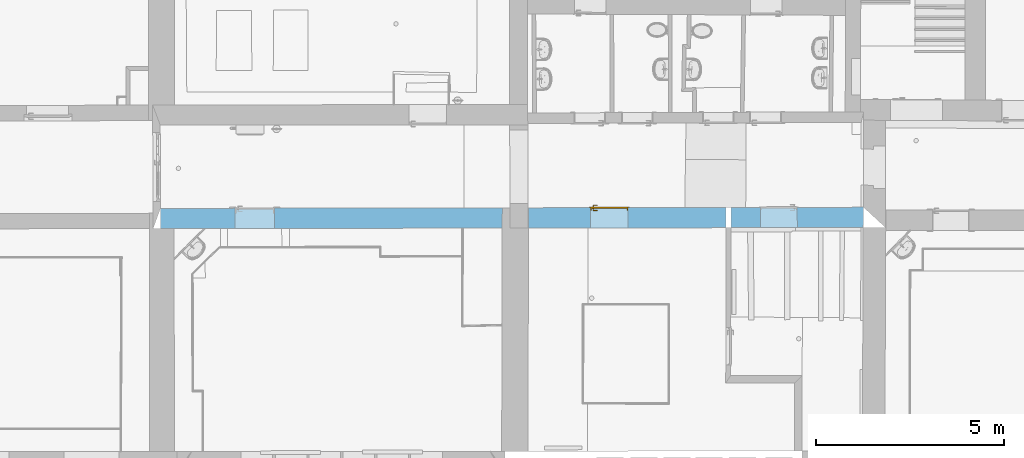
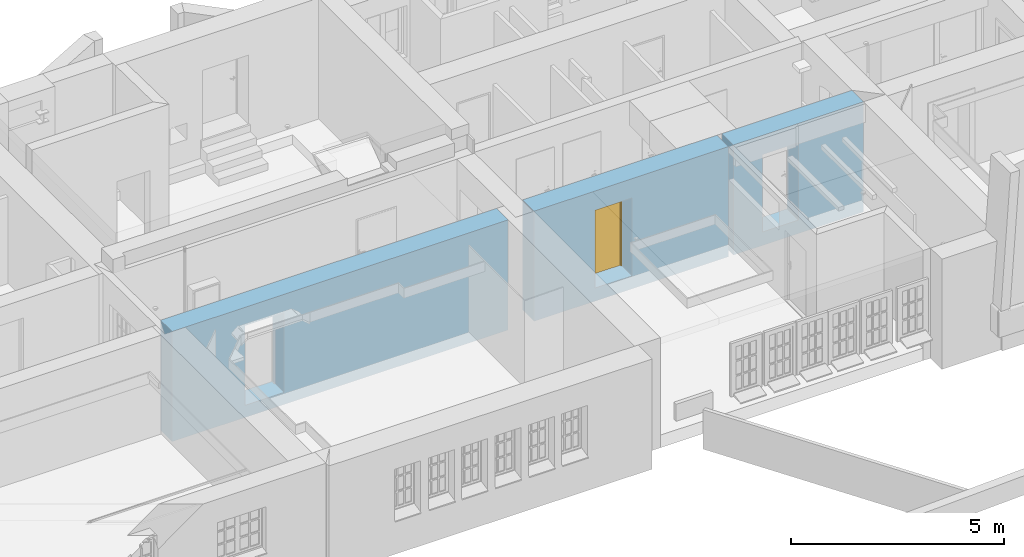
# One storey, part 96 of 196: 1 door, 3 openings, plus 1 element that does not belong to this part.
"""IFC2X3 building model written with IfcOpenShell, lengths in metres."""

from ifc_helpers import new_model, entity, si_unit, converted_unit, derived_unit, money_unit, direction, frame, origin_with_axes, origin_2d_with_axis, place, context, subcontext, project, spatial, polyline, rectangle, outline, extrude, boolean, faceted_brep, material, type_object, element, fill, save


model = new_model("IFC2X3")

# Units and contexts
model_context = context("Model", 3, precision=1e-05, world=origin_with_axes(), true_north=direction((0.0, 1.0)))
body_context = subcontext(model_context, "Body", "Model", "MODEL_VIEW")
ifc_project = project(units=[si_unit("LENGTHUNIT", "METRE"), si_unit("AREAUNIT", "SQUARE_METRE"), si_unit("VOLUMEUNIT", "CUBIC_METRE"), converted_unit("PLANEANGLEUNIT", "DEGREE", entity("IfcPlaneAngleMeasure", 0.0174532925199), si_unit("PLANEANGLEUNIT", "RADIAN"), dimensions=[0, 0, 0, 0, 0, 0, 0]), money_unit("EUR"), converted_unit("TIMEUNIT", "Year", entity("IfcTimeMeasure", 31556926.0), si_unit("TIMEUNIT", "SECOND"), dimensions=[0, 0, 1, 0, 0, 0, 0]), si_unit("MASSUNIT", "GRAM", prefix="KILO"), si_unit("THERMODYNAMICTEMPERATUREUNIT", "DEGREE_CELSIUS"), si_unit("LUMINOUSINTENSITYUNIT", "LUMEN"), si_unit("ENERGYUNIT", "JOULE", prefix="MEGA"), derived_unit("THERMALCONDUCTANCEUNIT", [(si_unit("POWERUNIT", "WATT"), 1), (si_unit("LENGTHUNIT", "METRE"), -1), (si_unit("THERMODYNAMICTEMPERATUREUNIT", "KELVIN"), -1)]), derived_unit("SPECIFICHEATCAPACITYUNIT", [(si_unit("ENERGYUNIT", "JOULE"), 1), (si_unit("MASSUNIT", "GRAM", prefix="KILO"), -1), (si_unit("THERMODYNAMICTEMPERATUREUNIT", "KELVIN"), -1)]), derived_unit("MASSDENSITYUNIT", [(si_unit("MASSUNIT", "GRAM", prefix="KILO"), 1), (si_unit("VOLUMEUNIT", "CUBIC_METRE"), -1)])], contexts=[model_context])

# Site, building, storey
site_placement = place(None, origin_with_axes())
site = spatial("IfcSite", under=ifc_project, at=site_placement, Name="Gelände", CompositionType="ELEMENT")
building_placement = place(site_placement, origin_with_axes())
building = spatial("IfcBuilding", under=site, at=building_placement, Name="Gebäude", CompositionType="ELEMENT")
storey_placement = place(building_placement, frame((0.0, 0.0, -3.0), z_axis=(0.0, 0.0, 1.0), x_axis=(1.0, 0.0, 0.0)))
storey = spatial("IfcBuildingStorey", under=building, at=storey_placement, Name="KELLERGESCHOSS", CompositionType="ELEMENT", Elevation=-3.0)

# Wall, openings, door
ifc_material = material(Name="05_ALLGEMEIN - TRAGENDE BAUTEILE")
wall_type = type_object("IfcWallType", Name="05_ALLGEMEIN - TRAGENDE BAUTEILE 540", PredefinedType="ELEMENTEDWALL")
wall_placement = place(storey_placement, frame((21.9688178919, 16.9699382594, -0.36), z_axis=(0.0, 0.0, 1.0), x_axis=(-0.999998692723, -0.00161695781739, 0.0)))
wall = element("IfcWall", 1, at=wall_placement, inside=storey, type_object=wall_type, material=ifc_material, Name="Wand-036", ObjectType="ELEMENTEDWALL", context=body_context, shape_type="CSG", body=[
    boolean("DIFFERENCE", boolean("DIFFERENCE", boolean("DIFFERENCE", boolean("DIFFERENCE", extrude(outline(polyline([(-0.585878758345, 0.0), (18.9209869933, 0.0), (18.9209869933, 0.54), (-0.585878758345, 0.54), (-0.585878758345, 0.0)])), origin_with_axes(), (0.0, 0.0, 1.0), 3.15), faceted_brep([(18.7195389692, 0.54, 0.0), (18.7195389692, 0.54, 3.15), (18.9209869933, 0.54, 3.15), (18.9209869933, 0.54, 0.0), (18.7209862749, 0.0, 3.15), (18.7209862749, 0.0, 0.0), (18.9209869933, 0.0, 3.15), (18.9209869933, 0.0, 0.0)], [[[0, 1, 2, 3]], [[4, 1, 0, 5]], [[1, 4, 6, 2]], [[6, 7, 3, 2]], [[5, 0, 3, 7]], [[4, 5, 7, 6]]])), faceted_brep([(0.0, 0.0, 0.0), (0.0, 0.0, 3.15), (-0.585878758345, 0.0, 3.15), (-0.585878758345, 0.0, 0.0), (0.000340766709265, 0.0744834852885, 3.15), (0.000340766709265, 0.0744834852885, 0.0), (0.0031865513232, 0.0744756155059, 3.15), (0.0059051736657, 0.540000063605, 3.15), (-0.585878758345, 0.54, 3.15), (-0.585878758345, 0.54, 0.0), (0.00590520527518, 0.54, 0.0), (0.0031865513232, 0.0744756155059, 0.0), (0.0059051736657, 0.540000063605, 2.62)], [[[0, 1, 2, 3]], [[4, 1, 0, 5]], [[6, 7, 8, 2, 1, 4]], [[8, 9, 3, 2]], [[5, 0, 3, 9, 10, 11]], [[6, 4, 5, 11]], [[7, 6, 11, 10, 12]], [[12, 10, 9, 8, 7]]])), faceted_brep([(3.65791219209, 0.0, 0.0), (3.65791219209, 0.0, 3.15), (3.52791129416, 0.0, 3.15), (3.52791129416, 0.0, 0.0), (3.65991925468, 0.54, 3.15), (3.65991925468, 0.54, 0.0), (3.52991835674, 0.54, 3.15), (3.52991835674, 0.54, 0.0)], [[[0, 1, 2, 3]], [[4, 1, 0, 5]], [[1, 4, 6, 2]], [[3, 2, 6, 7]], [[5, 0, 3, 7]], [[4, 5, 7, 6]]])), faceted_brep([(9.61975499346, 0.0, 0.0), (9.61975499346, 0.0, 3.15), (8.91974889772, 0.0, 3.15), (8.91974889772, 0.0, 0.0), (9.62200857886, 0.54, 3.15), (9.62200857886, 0.54, 0.0), (8.92200248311, 0.54, 3.15), (8.92200248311, 0.54, 0.0)], [[[0, 1, 2, 3]], [[4, 1, 0, 5]], [[1, 4, 6, 2]], [[3, 2, 6, 7]], [[5, 0, 3, 7]], [[4, 5, 7, 6]]])),
])
opening_1_placement = place(wall_placement, frame((16.2148036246, 0.0, 0.348037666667), z_axis=(0.0, 0.0, 1.0), x_axis=(1.0, 0.0, 0.0)))
element("IfcOpeningElement", 2, at=opening_1_placement, cuts=wall, Name="Tür-022", context=body_context, shape_type="SweptSolid", body=[
    extrude(rectangle(XDim=1.05454069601, YDim=2.277381, at=origin_2d_with_axis()), frame((0.0, -0.54, 1.1386905), z_axis=(0.0, 1.0, 0.0), x_axis=(-1.0, 0.0, 0.0)), (0.0, 0.0, 1.0), 1.62),
])
opening_2_placement = place(wall_placement, frame((6.77224830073, 0.0, 0.373), z_axis=(0.0, 0.0, 1.0), x_axis=(1.0, 0.0, 0.0)))
opening_2 = element("IfcOpeningElement", 3, at=opening_2_placement, cuts=wall, Name="Tür-022", context=body_context, shape_type="SweptSolid", body=[
    extrude(rectangle(XDim=1.00009255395, YDim=2.2284909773, at=origin_2d_with_axis()), frame((0.0, -0.54, 1.11424548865), z_axis=(0.0, 1.0, 0.0), x_axis=(-1.0, 0.0, 0.0)), (0.0, 0.0, 1.0), 1.62),
])
opening_3_placement = place(wall_placement, frame((2.25172785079, 0.0, 0.382635), z_axis=(0.0, 0.0, 1.0), x_axis=(1.0, 0.0, 0.0)))
element("IfcOpeningElement", 4, at=opening_3_placement, cuts=wall, Name="Tür-022", context=body_context, shape_type="SweptSolid", body=[
    extrude(rectangle(XDim=0.976937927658, YDim=2.214082, at=origin_2d_with_axis()), frame((0.0, -0.54, 1.107041), z_axis=(0.0, -1.0, 0.0), x_axis=(1.0, 0.0, 0.0)), (0.0, 0.0, -1.0), 1.62),
])
door_style = type_object("IfcDoorStyle", Name="Blockrahmentür 1-Fl 25", ConstructionType="NOTDEFINED", OperationType="SINGLE_SWING_RIGHT", ParameterTakesPrecedence=False, Sizeable=False)
door_placement = place(opening_2_placement, frame((0.470046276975, 0.0, 0.0), z_axis=(0.0, 0.0, 1.0), x_axis=(-1.0, 0.0, 0.0)))
door = element("IfcDoor", 5, at=door_placement, inside=storey, type_object=door_style, Name="Tür-022", ObjectType="NOTDEFINED", OverallHeight=2.22849, OverallWidth=1.00009, context=body_context, shape_type="Brep", body=[
    faceted_brep([(0.970092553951, -0.073, 0.0), (0.970092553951, -0.028, 0.0), (0.970092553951, -0.028, 2.2284909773), (0.970092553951, -0.073, 2.2284909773), (0.940092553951, -0.073, 0.0), (0.940092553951, -0.028, 0.0), (0.940092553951, -0.028, 2.1984909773), (0.585146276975, -0.028, 2.1984909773), (0.470146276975, -0.028, 2.1984909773), (0.0, -0.028, 2.1984909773), (0.0, -0.028, 0.0), (-0.03, -0.028, 0.0), (-0.03, -0.028, 2.2284909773), (-0.03, -0.073, 2.2284909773), (-0.03, -0.073, 0.0), (0.0, -0.073, 0.0), (0.0, -0.073, 2.1984909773), (0.470146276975, -0.073, 2.1984909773), (0.585146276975, -0.073, 2.1984909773), (0.940092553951, -0.073, 2.1984909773)], [[[0, 1, 2, 3]], [[4, 5, 1, 0]], [[1, 5, 6, 7, 8, 9, 10, 11, 12, 2]], [[3, 2, 12, 13]], [[0, 3, 13, 14, 15, 16, 17, 18, 19, 4]], [[19, 6, 5, 4]], [[18, 7, 6, 19]], [[17, 8, 7, 18]], [[16, 9, 8, 17]], [[15, 10, 9, 16]], [[14, 11, 10, 15]], [[13, 12, 11, 14]]]),
    faceted_brep([(0.970092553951, -0.028, 0.0), (0.970092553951, 0.012, 0.0), (0.970092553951, 0.012, 2.2284909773), (0.970092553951, -0.028, 2.2284909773), (0.955092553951, -0.028, 0.0), (0.955092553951, 0.012, 0.0), (0.955092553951, 0.012, 2.2134909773), (0.570146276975, 0.012, 2.2134909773), (0.485146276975, 0.012, 2.2134909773), (-0.015, 0.012, 2.2134909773), (-0.015, 0.012, 0.0), (-0.03, 0.012, 0.0), (-0.03, 0.012, 2.2284909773), (-0.03, -0.028, 2.2284909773), (-0.03, -0.028, 0.0), (-0.015, -0.028, 0.0), (-0.015, -0.028, 2.2134909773), (0.485146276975, -0.028, 2.2134909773), (0.570146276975, -0.028, 2.2134909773), (0.955092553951, -0.028, 2.2134909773)], [[[0, 1, 2, 3]], [[4, 5, 1, 0]], [[1, 5, 6, 7, 8, 9, 10, 11, 12, 2]], [[3, 2, 12, 13]], [[0, 3, 13, 14, 15, 16, 17, 18, 19, 4]], [[19, 6, 5, 4]], [[18, 7, 6, 19]], [[17, 8, 7, 18]], [[16, 9, 8, 17]], [[15, 10, 9, 16]], [[14, 11, 10, 15]], [[13, 12, 11, 14]]]),
    faceted_brep([(1.01009255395, 0.0, 0.0), (1.01009255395, 0.012, 0.0), (1.01009255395, 0.012, 2.2684909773), (1.01009255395, 0.0, 2.2684909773), (0.970092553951, 0.0, 0.0), (0.970092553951, 0.012, 0.0), (0.970092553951, 0.012, 2.2284909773), (-0.03, 0.012, 2.2284909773), (-0.03, 0.012, 0.0), (-0.07, 0.012, 0.0), (-0.07, 0.012, 2.2684909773), (-0.07, 0.0, 2.2684909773), (-0.07, 0.0, 0.0), (-0.03, 0.0, 0.0), (-0.03, 0.0, 2.2284909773), (0.970092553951, 0.0, 2.2284909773)], [[[0, 1, 2, 3]], [[4, 5, 1, 0]], [[1, 5, 6, 7, 8, 9, 10, 2]], [[3, 2, 10, 11]], [[0, 3, 11, 12, 13, 14, 15, 4]], [[15, 6, 5, 4]], [[14, 7, 6, 15]], [[13, 8, 7, 14]], [[12, 9, 8, 13]], [[11, 10, 9, 12]]]),
    faceted_brep([(0.955092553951, 0.017, 0.0), (-0.015, 0.017, 0.0), (-0.015, 0.017, 2.2134909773), (0.955092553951, 0.017, 2.2134909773), (0.955092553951, -0.028, 0.0), (-0.015, -0.028, 0.0), (-0.015, -0.028, 2.2134909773), (0.955092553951, -0.028, 2.2134909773)], [[[0, 1, 2, 3]], [[1, 0, 4, 5]], [[2, 1, 5, 6]], [[3, 2, 6, 7]], [[0, 3, 7, 4]], [[5, 4, 7, 6]]]),
    faceted_brep([(0.0402977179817, -0.068, 1.05647213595), (0.045, -0.068, 1.058), (0.045, -0.048, 1.058), (0.0402977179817, -0.048, 1.05647213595), (0.0373915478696, -0.068, 1.05247213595), (0.0373915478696, -0.068, 1.04752786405), (0.0402977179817, -0.068, 1.04352786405), (0.045, -0.068, 1.042), (0.0497022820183, -0.068, 1.04352786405), (0.0526084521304, -0.068, 1.04752786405), (0.0526084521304, -0.068, 1.05247213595), (0.0497022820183, -0.068, 1.05647213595), (0.0497022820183, -0.048, 1.05647213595), (0.045, -0.046, 1.06), (0.0391221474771, -0.046, 1.05809016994), (0.0373915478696, -0.048, 1.05247213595), (0.0373915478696, -0.048, 1.04752786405), (0.0402977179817, -0.048, 1.04352786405), (0.045, -0.048, 1.042), (0.0497022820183, -0.048, 1.04352786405), (0.0526084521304, -0.048, 1.04752786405), (0.0526084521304, -0.048, 1.05247213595), (0.0508778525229, -0.046, 1.05809016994), (0.045, -0.038, 1.06), (0.0391221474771, -0.038, 1.05809016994), (0.0354894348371, -0.046, 1.05309016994), (0.0354894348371, -0.046, 1.04690983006), (0.0391221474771, -0.046, 1.04190983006), (0.045, -0.046, 1.04), (0.0508778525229, -0.046, 1.04190983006), (0.054510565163, -0.046, 1.04690983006), (0.054510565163, -0.046, 1.05309016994), (0.0508778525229, -0.038, 1.05809016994), (0.054510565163, -0.038, 1.05309016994), (0.054510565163, -0.038, 1.04690983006), (0.0508778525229, -0.038, 1.04190983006), (0.045, -0.038, 1.04), (0.0391221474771, -0.038, 1.04190983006), (0.0354894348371, -0.038, 1.04690983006), (0.0354894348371, -0.038, 1.05309016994)], [[[0, 1, 2, 3]], [[1, 0, 4, 5, 6, 7, 8, 9, 10, 11]], [[1, 11, 12, 2]], [[3, 2, 13, 14]], [[4, 0, 3, 15]], [[5, 4, 15, 16]], [[6, 5, 16, 17]], [[7, 6, 17, 18]], [[8, 7, 18, 19]], [[9, 8, 19, 20]], [[10, 9, 20, 21]], [[11, 10, 21, 12]], [[2, 12, 22, 13]], [[14, 13, 23, 24]], [[15, 3, 14, 25]], [[16, 15, 25, 26]], [[17, 16, 26, 27]], [[18, 17, 27, 28]], [[19, 18, 28, 29]], [[20, 19, 29, 30]], [[21, 20, 30, 31]], [[12, 21, 31, 22]], [[13, 22, 32, 23]], [[23, 32, 33, 34, 35, 36, 37, 38, 39, 24]], [[25, 14, 24, 39]], [[26, 25, 39, 38]], [[27, 26, 38, 37]], [[28, 27, 37, 36]], [[29, 28, 36, 35]], [[30, 29, 35, 34]], [[31, 30, 34, 33]], [[22, 31, 33, 32]]]),
    faceted_brep([(0.0571883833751, -0.038, 1.11759695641), (0.0494435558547, -0.038, 1.12195567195), (0.0405564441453, -0.038, 1.12195567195), (0.0328116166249, -0.038, 1.11759695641), (0.0282, -0.038, 1.11), (0.0225, -0.038, 1.11), (0.0225, -0.038, 0.89), (0.0282, -0.038, 0.89), (0.0328116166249, -0.038, 0.882403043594), (0.0405564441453, -0.038, 0.878044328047), (0.0494435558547, -0.038, 0.878044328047), (0.0571883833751, -0.038, 0.882403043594), (0.0618, -0.038, 0.89), (0.0675, -0.038, 0.89), (0.0675, -0.038, 1.11), (0.0618, -0.038, 1.11), (0.045, -0.038, 0.967425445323), (0.050375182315, -0.038, 0.965143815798), (0.0524678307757, -0.038, 0.959692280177), (0.05, -0.038, 0.9544), (0.05, -0.038, 0.9375), (0.0485355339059, -0.038, 0.933964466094), (0.045, -0.038, 0.9325), (0.0414644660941, -0.038, 0.933964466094), (0.04, -0.038, 0.9375), (0.04, -0.038, 0.9544), (0.0375321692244, -0.038, 0.959692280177), (0.0396248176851, -0.038, 0.965143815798), (0.0571883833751, -0.028, 1.11759695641), (0.0494435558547, -0.028, 1.12195567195), (0.0405564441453, -0.028, 1.12195567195), (0.0328116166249, -0.028, 1.11759695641), (0.0282, -0.028, 1.11), (0.0225, -0.028, 1.11), (0.0225, -0.028, 0.89), (0.0282, -0.028, 0.89), (0.0328116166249, -0.028, 0.882403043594), (0.0405564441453, -0.028, 0.878044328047), (0.0494435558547, -0.028, 0.878044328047), (0.0571883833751, -0.028, 0.882403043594), (0.0618, -0.028, 0.89), (0.0675, -0.028, 0.89), (0.0675, -0.028, 1.11), (0.0618, -0.028, 1.11), (0.045, -0.028, 0.967425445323), (0.050375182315, -0.028, 0.965143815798), (0.0524678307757, -0.028, 0.959692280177), (0.05, -0.028, 0.9544), (0.05, -0.028, 0.9375), (0.0485355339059, -0.028, 0.933964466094), (0.045, -0.028, 0.9325), (0.0414644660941, -0.028, 0.933964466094), (0.04, -0.028, 0.9375), (0.04, -0.028, 0.9544), (0.0375321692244, -0.028, 0.959692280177), (0.039624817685, -0.028, 0.965143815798)], [[[0, 1, 2, 3, 4, 5, 6, 7, 8, 9, 10, 11, 12, 13, 14, 15], [16, 17, 18, 19, 20, 21, 22, 23, 24, 25, 26, 27]], [[1, 0, 28, 29]], [[2, 1, 29, 30]], [[3, 2, 30, 31]], [[4, 3, 31, 32]], [[5, 4, 32, 33]], [[6, 5, 33, 34]], [[7, 6, 34, 35]], [[8, 7, 35, 36]], [[9, 8, 36, 37]], [[10, 9, 37, 38]], [[11, 10, 38, 39]], [[12, 11, 39, 40]], [[13, 12, 40, 41]], [[14, 13, 41, 42]], [[15, 14, 42, 43]], [[0, 15, 43, 28]], [[17, 16, 44, 45]], [[18, 17, 45, 46]], [[19, 18, 46, 47]], [[19, 47, 48, 20]], [[20, 48, 49, 21]], [[21, 49, 50, 22]], [[22, 50, 51, 23]], [[23, 51, 52, 24]], [[53, 25, 24, 52]], [[26, 25, 53, 54]], [[27, 26, 54, 55]], [[16, 27, 55, 44]], [[40, 39, 38, 37, 36, 35, 34, 33, 32, 31, 30, 29, 28, 43, 42, 41], [54, 53, 52, 51, 50, 49, 48, 47, 46, 45, 44, 55]]]),
    faceted_brep([(0.159253, -0.068, 1.057158), (0.159253, -0.083, 1.057158), (0.159254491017, -0.083, 1.05719388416), (0.159254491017, -0.068, 1.05719388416), (0.132225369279, -0.068, 1.06432652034), (0.132225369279, -0.083, 1.06432652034), (0.104397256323, -0.083, 1.06706086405), (0.0764912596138, -0.083, 1.06529002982), (0.049232, -0.083, 1.05906), (0.0428294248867, -0.083, 1.05976125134), (0.0373273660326, -0.083, 1.05641280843), (0.0350084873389, -0.083, 1.05040385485), (0.0368348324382, -0.083, 1.04422735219), (0.0420486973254, -0.083, 1.04044577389), (0.0484869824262, -0.083, 1.04062800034), (0.0534786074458, -0.083, 1.04469843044), (0.053458, -0.083, 1.044666), (0.0787467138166, -0.083, 1.05019878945), (0.104589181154, -0.083, 1.05171460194), (0.130351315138, -0.083, 1.04917624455), (0.155401, -0.083, 1.042646), (0.160944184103, -0.083, 1.04356849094), (0.16430572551, -0.083, 1.04807159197), (0.163614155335, -0.083, 1.05364829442), (0.163614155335, -0.068, 1.05364829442), (0.16430572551, -0.068, 1.04807159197), (0.160944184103, -0.068, 1.04356849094), (0.155401, -0.068, 1.042646), (0.130351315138, -0.068, 1.04917624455), (0.104589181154, -0.068, 1.05171460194), (0.0787467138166, -0.068, 1.05019878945), (0.053458, -0.068, 1.044666), (0.0534786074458, -0.068, 1.04469843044), (0.0484869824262, -0.068, 1.04062800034), (0.0420486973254, -0.068, 1.04044577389), (0.0368348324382, -0.068, 1.04422735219), (0.0350084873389, -0.068, 1.05040385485), (0.0373273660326, -0.068, 1.05641280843), (0.0428294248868, -0.068, 1.05976125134), (0.049232, -0.068, 1.05906), (0.0764912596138, -0.068, 1.06529002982), (0.104397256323, -0.068, 1.06706086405)], [[[0, 1, 2, 3]], [[4, 5, 1, 0]], [[1, 5, 6, 7, 8, 9, 10, 11, 12, 13, 14, 15, 16, 17, 18, 19, 20, 21, 22, 23, 2]], [[3, 2, 23, 24]], [[0, 3, 24, 25, 26, 27, 28, 29, 30, 31, 32, 33, 34, 35, 36, 37, 38, 39, 40, 41, 4]], [[41, 6, 5, 4]], [[40, 7, 6, 41]], [[39, 8, 7, 40]], [[38, 9, 8, 39]], [[37, 10, 9, 38]], [[36, 11, 10, 37]], [[35, 12, 11, 36]], [[34, 13, 12, 35]], [[33, 14, 13, 34]], [[32, 15, 14, 33]], [[31, 16, 15, 32]], [[30, 17, 16, 31]], [[29, 18, 17, 30]], [[28, 19, 18, 29]], [[27, 20, 19, 28]], [[26, 21, 20, 27]], [[25, 22, 21, 26]], [[24, 23, 22, 25]]]),
    faceted_brep([(0.0402977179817, 0.057, 1.05647213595), (0.0402977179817, 0.037, 1.05647213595), (0.045, 0.037, 1.058), (0.045, 0.057, 1.058), (0.0373915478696, 0.057, 1.05247213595), (0.0373915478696, 0.037, 1.05247213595), (0.0391221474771, 0.035, 1.05809016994), (0.045, 0.035, 1.06), (0.0497022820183, 0.037, 1.05647213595), (0.0497022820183, 0.057, 1.05647213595), (0.0526084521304, 0.057, 1.05247213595), (0.0526084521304, 0.057, 1.04752786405), (0.0497022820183, 0.057, 1.04352786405), (0.045, 0.057, 1.042), (0.0402977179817, 0.057, 1.04352786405), (0.0373915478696, 0.057, 1.04752786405), (0.0373915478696, 0.037, 1.04752786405), (0.0354894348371, 0.035, 1.05309016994), (0.0391221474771, 0.027, 1.05809016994), (0.045, 0.027, 1.06), (0.0508778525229, 0.035, 1.05809016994), (0.0526084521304, 0.037, 1.05247213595), (0.0526084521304, 0.037, 1.04752786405), (0.0497022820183, 0.037, 1.04352786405), (0.045, 0.037, 1.042), (0.0402977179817, 0.037, 1.04352786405), (0.0354894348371, 0.035, 1.04690983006), (0.0354894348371, 0.027, 1.05309016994), (0.0354894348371, 0.027, 1.04690983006), (0.0391221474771, 0.027, 1.04190983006), (0.045, 0.027, 1.04), (0.0508778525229, 0.027, 1.04190983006), (0.054510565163, 0.027, 1.04690983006), (0.054510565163, 0.027, 1.05309016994), (0.0508778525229, 0.027, 1.05809016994), (0.054510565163, 0.035, 1.05309016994), (0.054510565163, 0.035, 1.04690983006), (0.0508778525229, 0.035, 1.04190983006), (0.045, 0.035, 1.04), (0.0391221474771, 0.035, 1.04190983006)], [[[0, 1, 2, 3]], [[4, 5, 1, 0]], [[1, 6, 7, 2]], [[3, 2, 8, 9]], [[3, 9, 10, 11, 12, 13, 14, 15, 4, 0]], [[15, 16, 5, 4]], [[5, 17, 6, 1]], [[6, 18, 19, 7]], [[2, 7, 20, 8]], [[9, 8, 21, 10]], [[10, 21, 22, 11]], [[11, 22, 23, 12]], [[12, 23, 24, 13]], [[13, 24, 25, 14]], [[14, 25, 16, 15]], [[16, 26, 17, 5]], [[17, 27, 18, 6]], [[19, 18, 27, 28, 29, 30, 31, 32, 33, 34]], [[7, 19, 34, 20]], [[8, 20, 35, 21]], [[21, 35, 36, 22]], [[22, 36, 37, 23]], [[23, 37, 38, 24]], [[24, 38, 39, 25]], [[25, 39, 26, 16]], [[26, 28, 27, 17]], [[39, 29, 28, 26]], [[38, 30, 29, 39]], [[37, 31, 30, 38]], [[36, 32, 31, 37]], [[35, 33, 32, 36]], [[20, 34, 33, 35]]]),
    faceted_brep([(0.0571883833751, 0.017, 1.11759695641), (0.0494435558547, 0.017, 1.12195567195), (0.0405564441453, 0.017, 1.12195567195), (0.0328116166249, 0.017, 1.11759695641), (0.0282, 0.017, 1.11), (0.0225, 0.017, 1.11), (0.0225, 0.017, 0.89), (0.0282, 0.017, 0.89), (0.0328116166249, 0.017, 0.882403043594), (0.0405564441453, 0.017, 0.878044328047), (0.0494435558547, 0.017, 0.878044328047), (0.0571883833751, 0.017, 0.882403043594), (0.0618, 0.017, 0.89), (0.0675, 0.017, 0.89), (0.0675, 0.017, 1.11), (0.0618, 0.017, 1.11), (0.045, 0.017, 0.967425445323), (0.050375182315, 0.017, 0.965143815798), (0.0524678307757, 0.017, 0.959692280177), (0.05, 0.017, 0.9544), (0.05, 0.017, 0.9375), (0.0485355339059, 0.017, 0.933964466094), (0.045, 0.017, 0.9325), (0.0414644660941, 0.017, 0.933964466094), (0.04, 0.017, 0.9375), (0.04, 0.017, 0.9544), (0.0375321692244, 0.017, 0.959692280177), (0.0396248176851, 0.017, 0.965143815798), (0.0494435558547, 0.027, 1.12195567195), (0.0571883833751, 0.027, 1.11759695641), (0.0405564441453, 0.027, 1.12195567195), (0.0328116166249, 0.027, 1.11759695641), (0.0282, 0.027, 1.11), (0.0225, 0.027, 1.11), (0.0225, 0.027, 0.89), (0.0282, 0.027, 0.89), (0.0328116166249, 0.027, 0.882403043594), (0.0405564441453, 0.027, 0.878044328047), (0.0494435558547, 0.027, 0.878044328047), (0.0571883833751, 0.027, 0.882403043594), (0.0618, 0.027, 0.89), (0.0675, 0.027, 0.89), (0.0675, 0.027, 1.11), (0.0618, 0.027, 1.11), (0.045, 0.027, 0.967425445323), (0.050375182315, 0.027, 0.965143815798), (0.0524678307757, 0.027, 0.959692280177), (0.05, 0.027, 0.9544), (0.05, 0.027, 0.9375), (0.0485355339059, 0.027, 0.933964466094), (0.045, 0.027, 0.9325), (0.0414644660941, 0.027, 0.933964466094), (0.04, 0.027, 0.9375), (0.04, 0.027, 0.9544), (0.0375321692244, 0.027, 0.959692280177), (0.0396248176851, 0.027, 0.965143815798)], [[[0, 1, 2, 3, 4, 5, 6, 7, 8, 9, 10, 11, 12, 13, 14, 15], [16, 17, 18, 19, 20, 21, 22, 23, 24, 25, 26, 27]], [[28, 1, 0, 29]], [[30, 2, 1, 28]], [[31, 3, 2, 30]], [[32, 4, 3, 31]], [[33, 5, 4, 32]], [[34, 6, 5, 33]], [[35, 7, 6, 34]], [[36, 8, 7, 35]], [[37, 9, 8, 36]], [[38, 10, 9, 37]], [[39, 11, 10, 38]], [[40, 12, 11, 39]], [[41, 13, 12, 40]], [[42, 14, 13, 41]], [[43, 15, 14, 42]], [[29, 0, 15, 43]], [[17, 16, 44, 45]], [[18, 17, 45, 46]], [[19, 18, 46, 47]], [[19, 47, 48, 20]], [[20, 48, 49, 21]], [[21, 49, 50, 22]], [[22, 50, 51, 23]], [[23, 51, 52, 24]], [[53, 25, 24, 52]], [[26, 25, 53, 54]], [[27, 26, 54, 55]], [[16, 27, 55, 44]], [[40, 39, 38, 37, 36, 35, 34, 33, 32, 31, 30, 28, 29, 43, 42, 41], [54, 53, 52, 51, 50, 49, 48, 47, 46, 45, 44, 55]]]),
    faceted_brep([(0.159253, 0.057, 1.057158), (0.159254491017, 0.057, 1.05719388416), (0.159254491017, 0.072, 1.05719388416), (0.159253, 0.072, 1.057158), (0.132225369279, 0.057, 1.06432652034), (0.104397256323, 0.057, 1.06706086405), (0.0764912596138, 0.057, 1.06529002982), (0.049232, 0.057, 1.05906), (0.0428294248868, 0.057, 1.05976125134), (0.0373273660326, 0.057, 1.05641280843), (0.0350084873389, 0.057, 1.05040385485), (0.0368348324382, 0.057, 1.04422735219), (0.0420486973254, 0.057, 1.04044577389), (0.0484869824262, 0.057, 1.04062800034), (0.0534786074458, 0.057, 1.04469843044), (0.053458, 0.057, 1.044666), (0.0787467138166, 0.057, 1.05019878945), (0.104589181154, 0.057, 1.05171460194), (0.130351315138, 0.057, 1.04917624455), (0.155401, 0.057, 1.042646), (0.160944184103, 0.057, 1.04356849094), (0.16430572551, 0.057, 1.04807159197), (0.163614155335, 0.057, 1.05364829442), (0.163614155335, 0.072, 1.05364829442), (0.16430572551, 0.072, 1.04807159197), (0.160944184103, 0.072, 1.04356849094), (0.155401, 0.072, 1.042646), (0.130351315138, 0.072, 1.04917624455), (0.104589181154, 0.072, 1.05171460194), (0.0787467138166, 0.072, 1.05019878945), (0.053458, 0.072, 1.044666), (0.0534786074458, 0.072, 1.04469843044), (0.0484869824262, 0.072, 1.04062800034), (0.0420486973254, 0.072, 1.04044577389), (0.0368348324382, 0.072, 1.04422735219), (0.0350084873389, 0.072, 1.05040385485), (0.0373273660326, 0.072, 1.05641280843), (0.0428294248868, 0.072, 1.05976125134), (0.049232, 0.072, 1.05906), (0.0764912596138, 0.072, 1.06529002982), (0.104397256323, 0.072, 1.06706086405), (0.132225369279, 0.072, 1.06432652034)], [[[0, 1, 2, 3]], [[0, 4, 5, 6, 7, 8, 9, 10, 11, 12, 13, 14, 15, 16, 17, 18, 19, 20, 21, 22, 1]], [[1, 22, 23, 2]], [[3, 2, 23, 24, 25, 26, 27, 28, 29, 30, 31, 32, 33, 34, 35, 36, 37, 38, 39, 40, 41]], [[4, 0, 3, 41]], [[5, 4, 41, 40]], [[6, 5, 40, 39]], [[7, 6, 39, 38]], [[8, 7, 38, 37]], [[9, 8, 37, 36]], [[10, 9, 36, 35]], [[11, 10, 35, 34]], [[12, 11, 34, 33]], [[13, 12, 33, 32]], [[14, 13, 32, 31]], [[15, 14, 31, 30]], [[16, 15, 30, 29]], [[17, 16, 29, 28]], [[18, 17, 28, 27]], [[19, 18, 27, 26]], [[20, 19, 26, 25]], [[21, 20, 25, 24]], [[22, 21, 24, 23]]]),
])
fill(opening_2, door)

save(model, "model.ifc")
